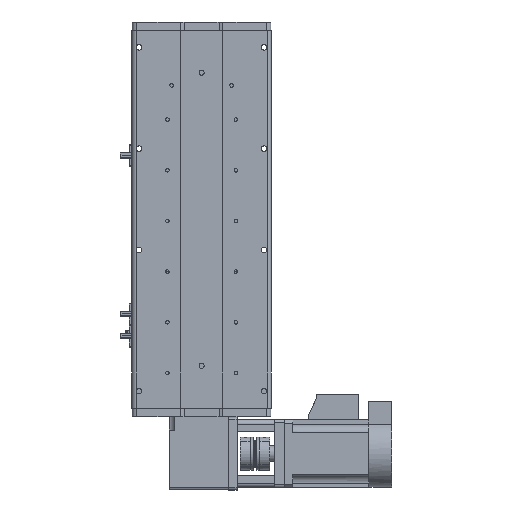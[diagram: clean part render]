
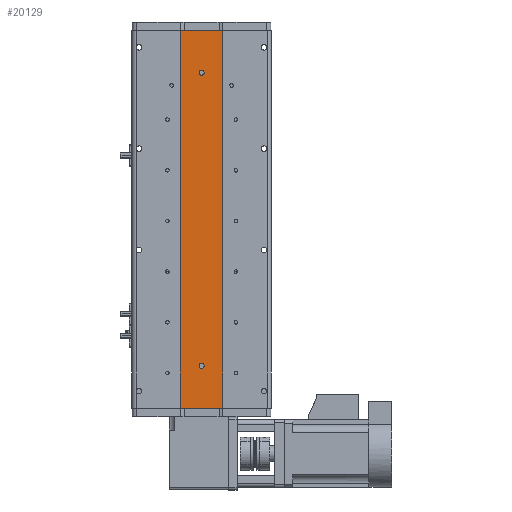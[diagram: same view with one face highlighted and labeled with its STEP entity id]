
A CAD part, front view. The second image highlights one B-rep face of the part: STEP entity #20129.
In plain terms, the highlighted planar face has unit normal (0, -1, 0).
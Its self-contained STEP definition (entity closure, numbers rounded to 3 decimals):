
#2075 = CARTESIAN_POINT ( 'NONE',  ( 25., 1., 223.5 ) ) ;
#2635 = AXIS2_PLACEMENT_3D ( 'NONE', #34383, #14005, #37817 ) ;
#2930 = CARTESIAN_POINT ( 'NONE',  ( 0., 1., -173.5 ) ) ;
#3347 = ORIENTED_EDGE ( 'NONE', *, *, #16921, .T. ) ;
#5539 = FACE_OUTER_BOUND ( 'NONE', #43962, .T. ) ;
#6002 = ORIENTED_EDGE ( 'NONE', *, *, #26296, .T. ) ;
#6367 = DIRECTION ( 'NONE',  ( 0., 0., 1. ) ) ;
#6700 = CARTESIAN_POINT ( 'NONE',  ( 25., 1., 223.5 ) ) ;
#7962 = VERTEX_POINT ( 'NONE', #18928 ) ;
#8062 = DIRECTION ( 'NONE',  ( 0., 1., 0. ) ) ;
#8468 = CARTESIAN_POINT ( 'NONE',  ( 25., 1., -223.5 ) ) ;
#8934 = VECTOR ( 'NONE', #32280, 1000. ) ;
#9187 = AXIS2_PLACEMENT_3D ( 'NONE', #11655, #35443, #15058 ) ;
#9514 = DIRECTION ( 'NONE',  ( 0., 1., 0. ) ) ;
#10408 = VERTEX_POINT ( 'NONE', #36841 ) ;
#11577 = CARTESIAN_POINT ( 'NONE',  ( -25., 1., 223.5 ) ) ;
#11655 = CARTESIAN_POINT ( 'NONE',  ( 0., 1., -173.5 ) ) ;
#11931 = CARTESIAN_POINT ( 'NONE',  ( 0., 1., 170.5 ) ) ;
#13941 = EDGE_CURVE ( 'NONE', #26893, #33263, #16949, .T. ) ;
#14005 = DIRECTION ( 'NONE',  ( 0., 1., 0. ) ) ;
#15058 = DIRECTION ( 'NONE',  ( 0., 0., 1. ) ) ;
#16921 = EDGE_CURVE ( 'NONE', #10408, #40919, #35485, .T. ) ;
#16949 = LINE ( 'NONE', #11577, #42991 ) ;
#17965 = LINE ( 'NONE', #8468, #8934 ) ;
#18058 = EDGE_CURVE ( 'NONE', #42146, #7962, #24724, .T. ) ;
#18928 = CARTESIAN_POINT ( 'NONE',  ( 0., 1., 176.5 ) ) ;
#20129 = ADVANCED_FACE ( 'NONE', ( #41727, #31627, #5539 ), #41951, .F. ) ;
#20333 = CARTESIAN_POINT ( 'NONE',  ( -25., 1., 223.5 ) ) ;
#21512 = AXIS2_PLACEMENT_3D ( 'NONE', #2930, #26745, #6367 ) ;
#21854 = DIRECTION ( 'NONE',  ( 0., 0., -1. ) ) ;
#22446 = AXIS2_PLACEMENT_3D ( 'NONE', #28445, #8062, #31864 ) ;
#23933 = CARTESIAN_POINT ( 'NONE',  ( -25., 1., -223.5 ) ) ;
#24724 = CIRCLE ( 'NONE', #2635, 3. ) ;
#25128 = ORIENTED_EDGE ( 'NONE', *, *, #25569, .F. ) ;
#25569 = EDGE_CURVE ( 'NONE', #42219, #31448, #41173, .T. ) ;
#25932 = DIRECTION ( 'NONE',  ( 0., 0., -1. ) ) ;
#26296 = EDGE_CURVE ( 'NONE', #40919, #10408, #30465, .T. ) ;
#26745 = DIRECTION ( 'NONE',  ( 0., 1., 0. ) ) ;
#26893 = VERTEX_POINT ( 'NONE', #20333 ) ;
#27077 = DIRECTION ( 'NONE',  ( 1., 0., 0. ) ) ;
#27205 = CARTESIAN_POINT ( 'NONE',  ( 0., 1., -170.5 ) ) ;
#27750 = ORIENTED_EDGE ( 'NONE', *, *, #28570, .T. ) ;
#28445 = CARTESIAN_POINT ( 'NONE',  ( 25., 1., 223.5 ) ) ;
#28570 = EDGE_CURVE ( 'NONE', #33263, #31448, #17965, .T. ) ;
#28935 = VECTOR ( 'NONE', #27077, 1000. ) ;
#29902 = CARTESIAN_POINT ( 'NONE',  ( 0., 1., 173.5 ) ) ;
#29998 = LINE ( 'NONE', #6700, #28935 ) ;
#30465 = CIRCLE ( 'NONE', #21512, 3. ) ;
#31442 = EDGE_CURVE ( 'NONE', #26893, #42219, #29998, .T. ) ;
#31448 = VERTEX_POINT ( 'NONE', #33889 ) ;
#31627 = FACE_BOUND ( 'NONE', #32030, .T. ) ;
#31864 = DIRECTION ( 'NONE',  ( 0., 0., 1. ) ) ;
#32030 = EDGE_LOOP ( 'NONE', ( #39482, #34140 ) ) ;
#32145 = VECTOR ( 'NONE', #25932, 1000. ) ;
#32280 = DIRECTION ( 'NONE',  ( 1., 0., 0. ) ) ;
#33263 = VERTEX_POINT ( 'NONE', #23933 ) ;
#33309 = DIRECTION ( 'NONE',  ( 0., 0., 1. ) ) ;
#33889 = CARTESIAN_POINT ( 'NONE',  ( 25., 1., -223.5 ) ) ;
#34140 = ORIENTED_EDGE ( 'NONE', *, *, #42296, .T. ) ;
#34383 = CARTESIAN_POINT ( 'NONE',  ( 0., 1., 173.5 ) ) ;
#35443 = DIRECTION ( 'NONE',  ( 0., 1., 0. ) ) ;
#35485 = CIRCLE ( 'NONE', #9187, 3. ) ;
#36841 = CARTESIAN_POINT ( 'NONE',  ( 0., 1., -176.5 ) ) ;
#37817 = DIRECTION ( 'NONE',  ( 0., 0., 1. ) ) ;
#38140 = ORIENTED_EDGE ( 'NONE', *, *, #13941, .T. ) ;
#38918 = CIRCLE ( 'NONE', #41816, 3. ) ;
#39436 = CARTESIAN_POINT ( 'NONE',  ( 25., 1., 223.5 ) ) ;
#39482 = ORIENTED_EDGE ( 'NONE', *, *, #18058, .T. ) ;
#40919 = VERTEX_POINT ( 'NONE', #27205 ) ;
#41173 = LINE ( 'NONE', #39436, #32145 ) ;
#41579 = ORIENTED_EDGE ( 'NONE', *, *, #31442, .F. ) ;
#41727 = FACE_BOUND ( 'NONE', #43587, .T. ) ;
#41816 = AXIS2_PLACEMENT_3D ( 'NONE', #29902, #9514, #33309 ) ;
#41951 = PLANE ( 'NONE',  #22446 ) ;
#42146 = VERTEX_POINT ( 'NONE', #11931 ) ;
#42219 = VERTEX_POINT ( 'NONE', #2075 ) ;
#42296 = EDGE_CURVE ( 'NONE', #7962, #42146, #38918, .T. ) ;
#42991 = VECTOR ( 'NONE', #21854, 1000. ) ;
#43587 = EDGE_LOOP ( 'NONE', ( #3347, #6002 ) ) ;
#43962 = EDGE_LOOP ( 'NONE', ( #27750, #25128, #41579, #38140 ) ) ;
